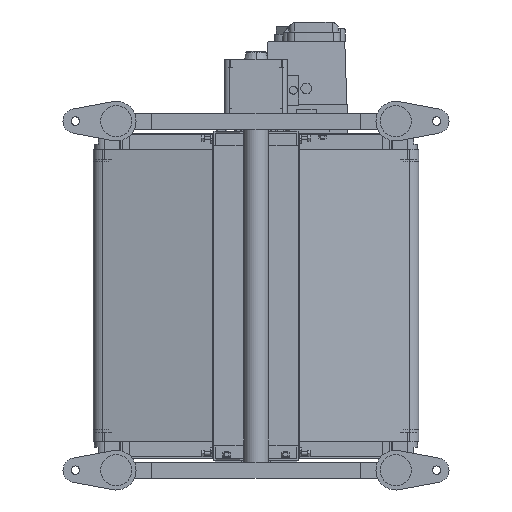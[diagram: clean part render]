
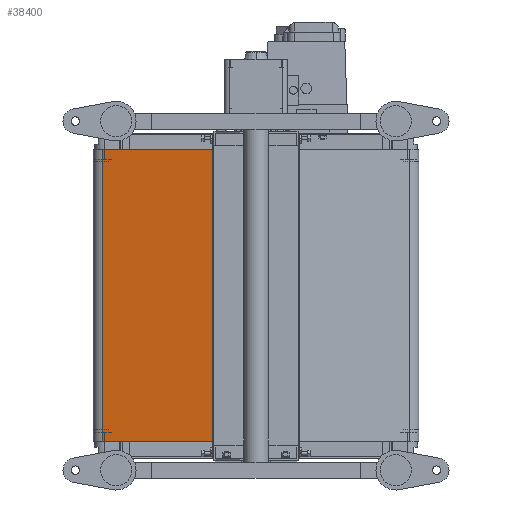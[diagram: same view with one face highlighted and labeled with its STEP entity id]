
A CAD part, front view. The second image highlights one B-rep face of the part: STEP entity #38400.
In plain terms, the highlighted planar face has unit normal (-0.176, -0.984, 0).
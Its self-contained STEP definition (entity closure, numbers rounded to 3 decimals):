
#152 = PLANE ( 'NONE',  #26406 ) ;
#415 = CARTESIAN_POINT ( 'NONE',  ( 14.409, -33.936, 225. ) ) ;
#4363 = ORIENTED_EDGE ( 'NONE', *, *, #47503, .T. ) ;
#9998 = CARTESIAN_POINT ( 'NONE',  ( 217.987, -70.264, 225. ) ) ;
#11407 = ORIENTED_EDGE ( 'NONE', *, *, #12240, .T. ) ;
#12240 = EDGE_CURVE ( 'NONE', #80489, #60459, #76617, .T. ) ;
#13726 = CARTESIAN_POINT ( 'NONE',  ( 14.409, -33.936, 225. ) ) ;
#16746 = VERTEX_POINT ( 'NONE', #54254 ) ;
#17506 = FACE_OUTER_BOUND ( 'NONE', #58181, .T. ) ;
#24586 = CARTESIAN_POINT ( 'NONE',  ( 217.987, -70.264, -225. ) ) ;
#24730 = VECTOR ( 'NONE', #72175, 1000. ) ;
#26406 = AXIS2_PLACEMENT_3D ( 'NONE', #415, #62318, #44168 ) ;
#32025 = VECTOR ( 'NONE', #70636, 1000. ) ;
#38400 = ADVANCED_FACE ( 'NONE', ( #17506 ), #152, .F. ) ;
#39416 = DIRECTION ( 'NONE',  ( 0.984, -0.176, 0. ) ) ;
#41360 = LINE ( 'NONE', #9998, #24730 ) ;
#43263 = CARTESIAN_POINT ( 'NONE',  ( 14.409, -33.936, -225. ) ) ;
#44168 = DIRECTION ( 'NONE',  ( -0.984, 0.176, 0. ) ) ;
#47109 = CARTESIAN_POINT ( 'NONE',  ( 14.409, -33.936, -225. ) ) ;
#47174 = CARTESIAN_POINT ( 'NONE',  ( 14.409, -33.936, 225. ) ) ;
#47503 = EDGE_CURVE ( 'NONE', #60459, #62692, #65436, .T. ) ;
#48559 = DIRECTION ( 'NONE',  ( 0., 0., -1. ) ) ;
#51052 = ORIENTED_EDGE ( 'NONE', *, *, #74944, .F. ) ;
#54254 = CARTESIAN_POINT ( 'NONE',  ( 217.987, -70.264, 225. ) ) ;
#58181 = EDGE_LOOP ( 'NONE', ( #4363, #51052, #76604, #11407 ) ) ;
#59991 = VECTOR ( 'NONE', #48559, 1000. ) ;
#60459 = VERTEX_POINT ( 'NONE', #43263 ) ;
#62318 = DIRECTION ( 'NONE',  ( 0.176, 0.984, 0. ) ) ;
#62692 = VERTEX_POINT ( 'NONE', #24586 ) ;
#65436 = LINE ( 'NONE', #47109, #32025 ) ;
#69389 = VECTOR ( 'NONE', #39416, 1000. ) ;
#70636 = DIRECTION ( 'NONE',  ( 0.984, -0.176, 0. ) ) ;
#72175 = DIRECTION ( 'NONE',  ( 0., 0., -1. ) ) ;
#72279 = LINE ( 'NONE', #13726, #69389 ) ;
#72938 = CARTESIAN_POINT ( 'NONE',  ( 14.409, -33.936, 225. ) ) ;
#74944 = EDGE_CURVE ( 'NONE', #16746, #62692, #41360, .T. ) ;
#76604 = ORIENTED_EDGE ( 'NONE', *, *, #78349, .F. ) ;
#76617 = LINE ( 'NONE', #47174, #59991 ) ;
#78349 = EDGE_CURVE ( 'NONE', #80489, #16746, #72279, .T. ) ;
#80489 = VERTEX_POINT ( 'NONE', #72938 ) ;
